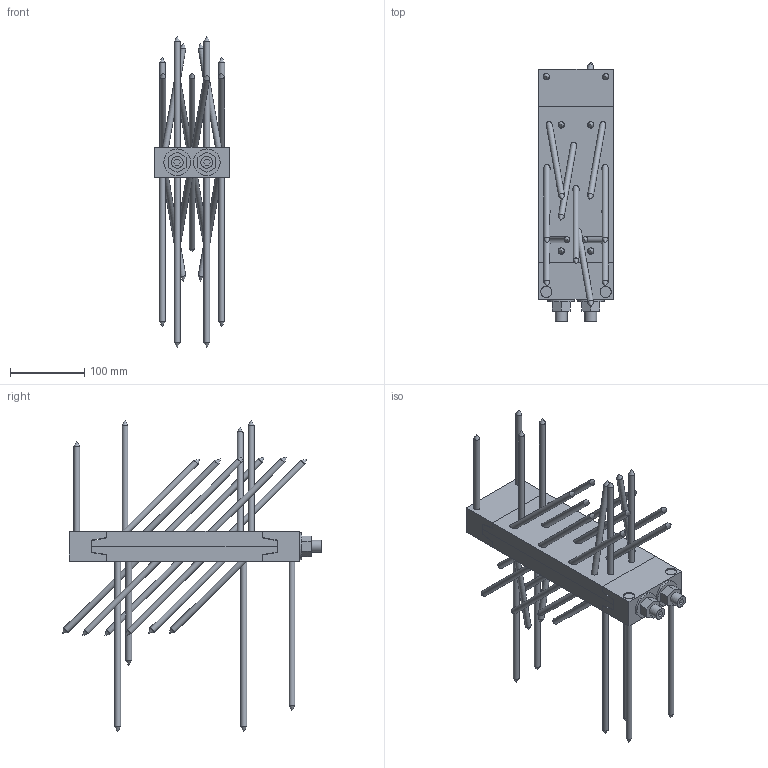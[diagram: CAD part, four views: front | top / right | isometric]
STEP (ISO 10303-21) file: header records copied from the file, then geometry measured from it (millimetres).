
FILE_DESCRIPTION(/* description */ ('Unknown'),/* implementation_level */ '2;1');
FILE_NAME(/* name */ 'MEGANT_310x100x40_Sichtbar',/* time_stamp */ '2020-05-05T17:00:06+02:00',/* author */ ('Unknown'),/* organization */ ('Unknown'),/* preprocessor_version */ 'ST-DEVELOPER v16.7',/* originating_system */ 'DEX',/* authorisation */ $);
FILE_SCHEMA (('AUTOMOTIVE_DESIGN {1 0 10303 214 3 1 1}'));
Length unit declared in the file: millimetre
Products named in the file (14): MEGANT_310x100x40_Sichtbar; Verbinderplatte_250x100x20_NT; Verbinderplatte_250x100x20; SK_Schraube_8x240; SK_Schraube_8x160; Verbinderplatte_250x100x20_HT; Spannbacke_oben_100x50x40_NT; Spannbacke_oben_100x50x40; Spannbacke_unten_100x50x40_HT; Spannbacke_unten_100x50x40; Gewindestange_M16_L340; Beilagscheibe_M16; Mutter_M16
Assembly tree (47 placements, depth 3):
  MEGANT_310x100x40_Sichtbar
    Verbinderplatte_250x100x20_NT
      Verbinderplatte_250x100x20
      SK_Schraube_8x240  x4
      SK_Schraube_8x160  x11
    Verbinderplatte_250x100x20_HT
      Verbinderplatte_250x100x20
      SK_Schraube_8x160  x15
    Spannbacke_oben_100x50x40_NT
      Spannbacke_oben_100x50x40
      SK_Schraube_8x240  x2
    Spannbacke_unten_100x50x40_HT
      Spannbacke_unten_100x50x40
      SK_Schraube_8x160  x2
    Gewindestange_M16_L340  x2
      Gewindestange_M16_L340
      Beilagscheibe_M16
      Mutter_M16
Bounding box: 100 x 349.49 x 420 mm (x, y, z)
Volume: 1434928.7 mm3; surface area: 411247.7 mm2
Topology: 44 solids, 44 shells, 470 faces, 1108 edges, 702 vertices
Faces by surface type: plane 212, cylinder 156, cone 102
Full cylindrical faces by diameter (mm): 8 x34, 8.5 x34, 13.835 x2, 14 x2, 15 x68, 16 x2, 17 x4, 36 x2
Entity records: 5699 total; most frequent: DIRECTION 930, CARTESIAN_POINT 865, ORIENTED_EDGE 724, EDGE_CURVE 362, AXIS2_PLACEMENT_3D 341, FACE_BOUND 306, EDGE_LOOP 304, VERTEX_POINT 276
